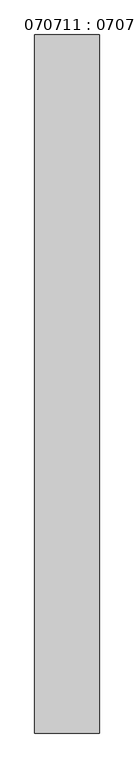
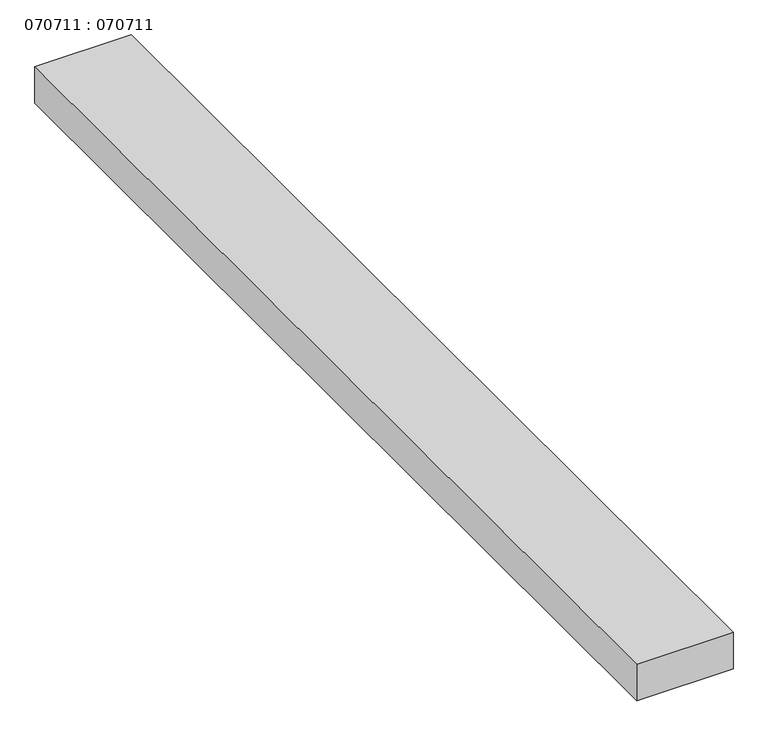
"""IFC4 building model written with IfcOpenShell, lengths in millimetres: proxy geometry, 070711 : 070711."""

from ifc_helpers import new_model, si_unit, origin, origin_with_axes, place, context, project, spatial, polyline, outline, extrude, source, transform, mapped, element, save


def proxy_070711_070711_2e114157(model_context):
    return source(origin(), model_context, "Body", "SweptSolid", [
        extrude(outline(polyline([(250.0, 2700.0), (250.0, 0.0), (0.0, 0.0), (0.0, 2700.0), (250.0, 2700.0)])), origin_with_axes(), (0.0, 0.0, 1.0), 100.0),
    ])


if __name__ == "__main__":
    model = new_model("IFC4")
    model_context = context("Model", 3, world=origin())
    ifc_project = project(units=[si_unit("LENGTHUNIT", "METRE", prefix="MILLI")], contexts=[model_context])
    site = spatial("IfcSite", under=ifc_project)
    building = spatial("IfcBuilding", under=site)
    placement = place(None, origin())
    proxy_070711_070711_shape = proxy_070711_070711_2e114157(model_context)
    element("IfcBuildingElementProxy", 1, Name="070711 : 070711", ObjectType="070711 : 070711", at=placement, inside=building, context=model_context, shape_type="MappedRepresentation", body=[
        mapped(proxy_070711_070711_shape, transform((0.0, 0.0, 0.0), x_axis=(1.0, 0.0, 0.0), y_axis=(0.0, 1.0, 0.0), z_axis=(0.0, 0.0, 1.0))),
    ])
    save(model, "model.ifc")
